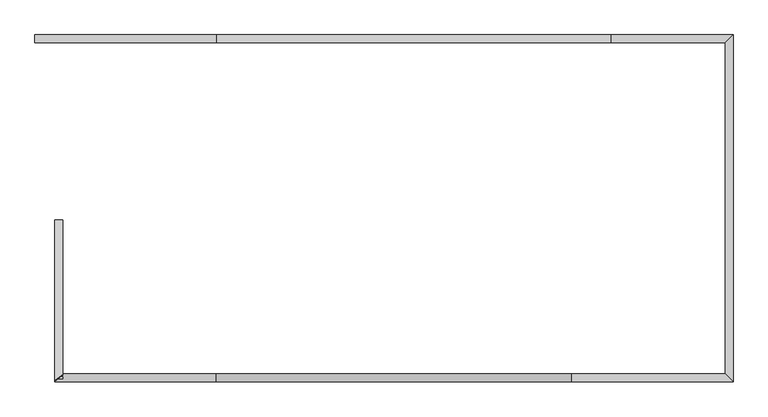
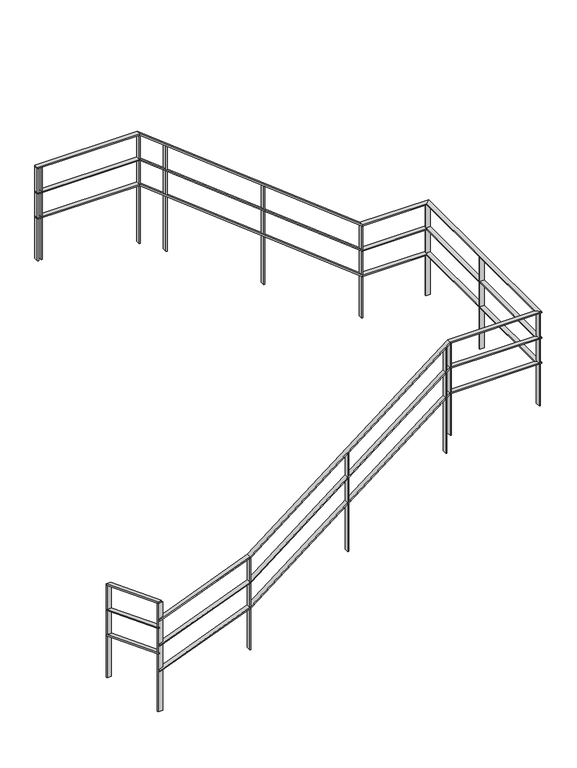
"""IFC4 building model written with IfcOpenShell, lengths in millimetres: railing geometry, r 1100mm 笠木フラットバー."""

from ifc_helpers import new_model, si_unit, frame, origin, place, context, project, spatial, polyline, outline, extrude, faceted_brep, source, transform, mapped, element, save


def railing_1eb0047a(model_context):
    return source(origin(), model_context, "Body", "SolidModel", [
        faceted_brep([(-2820.9784025, 14849.6868987, 1389.2091709), (-2820.9784025, 14849.6868987, 1402.0951769), (-2770.9784025, 14849.6868987, 1402.0951769), (-2770.9784025, 14849.6868987, 1389.2091709), (-2820.9784025, 13826.6877623, 1789.5131808), (-2770.9784025, 13864.9656205, 1774.5348885), (-2770.9784025, 13872.6860351, 1784.3998627), (-2820.9784025, 13834.4081769, 1799.378155)], [[[0, 1, 2, 3]], [[4, 5, 6, 7]], [[3, 2, 6, 5]], [[0, 3, 5, 4]], [[1, 0, 4, 7]], [[2, 1, 7, 6]]]),
        faceted_brep([(-2811.2571243, 13824.6868987, 1578.8827146), (-2818.9775389, 13824.6868987, 1588.7476887), (-2780.6996807, 13874.6868987, 1603.7259811), (-2772.9792661, 13874.6868987, 1593.8610069), (-1798.9837263, 13874.6868987, 1987.8757024), (-1792.9730787, 13874.6868987, 1977.3416889), (-1792.9730787, 13824.6868987, 1977.3416889), (451.9528762, 13874.6868987, 3749.4782609), (456.0903187, 13874.6868987, 3737.4782609), (456.0903187, 13824.6868987, 3737.4782609), (1429.0215975, 13874.6868987, 3749.4782609), (1429.0215975, 13874.6868987, 3737.4782609), (1479.0215975, 13824.6868987, 3737.4782609), (1429.0215975, 15974.6868987, 3749.4782609), (1429.0215975, 15974.6868987, 3737.4782609), (1479.0215975, 16024.6868987, 3737.4782609), (706.0903187, 15974.6868987, 3749.4782609), (701.9528762, 15974.6868987, 3737.4782609), (701.9528762, 16024.6868987, 3737.4782609), (-1793.9096813, 15974.6868987, 5706.0), (-1798.0471238, 15974.6868987, 5694.0), (-1798.0471238, 16024.6868987, 5694.0), (-1798.9837263, 13824.6868987, 1987.8757024), (451.9528762, 13824.6868987, 3749.4782609), (1479.0215975, 13824.6868987, 3749.4782609), (1479.0215975, 16024.6868987, 3749.4782609), (706.0903187, 16024.6868987, 3749.4782609), (-1793.9096813, 16024.6868987, 5706.0), (-2945.9784025, 16024.6868987, 5694.0), (-2945.9784025, 15974.6868987, 5694.0), (-2945.9784025, 15974.6868987, 5706.0), (-2945.9784025, 16024.6868987, 5706.0)], [[[0, 1, 2, 3]], [[3, 2, 4, 5]], [[0, 3, 5, 6]], [[5, 4, 7, 8]], [[6, 5, 8, 9]], [[8, 7, 10, 11]], [[9, 8, 11, 12]], [[11, 10, 13, 14]], [[12, 11, 14, 15]], [[14, 13, 16, 17]], [[15, 14, 17, 18]], [[17, 16, 19, 20]], [[18, 17, 20, 21]], [[1, 0, 6, 22]], [[2, 1, 22, 4]], [[22, 6, 9, 23]], [[4, 22, 23, 7]], [[23, 9, 12, 24]], [[7, 23, 24, 10]], [[24, 12, 15, 25]], [[10, 24, 25, 13]], [[25, 15, 18, 26]], [[13, 25, 26, 16]], [[26, 18, 21, 27]], [[16, 26, 27, 19]], [[28, 29, 30, 31]], [[27, 21, 28, 31]], [[19, 27, 31, 30]], [[20, 19, 30, 29]], [[21, 20, 29, 28]]]),
        faceted_brep([(-2820.9784025, 14849.6868987, 1089.2091709), (-2820.9784025, 14849.6868987, 1102.0951769), (-2770.9784025, 14849.6868987, 1102.0951769), (-2770.9784025, 14849.6868987, 1089.2091709), (-2820.9784025, 13826.6877623, 1489.5131808), (-2770.9784025, 13864.9656205, 1474.5348885), (-2770.9784025, 13872.6860351, 1484.3998627), (-2820.9784025, 13834.4081769, 1499.378155)], [[[0, 1, 2, 3]], [[4, 5, 6, 7]], [[3, 2, 6, 5]], [[0, 3, 5, 4]], [[1, 0, 4, 7]], [[2, 1, 7, 6]]]),
        faceted_brep([(-2811.2571243, 13824.6868987, 1278.8827146), (-2818.9775389, 13824.6868987, 1288.7476887), (-2780.6996807, 13874.6868987, 1303.7259811), (-2772.9792661, 13874.6868987, 1293.8610069), (-1798.9837263, 13874.6868987, 1687.8757024), (-1792.9730787, 13874.6868987, 1677.3416889), (-1792.9730787, 13824.6868987, 1677.3416889), (451.9528762, 13874.6868987, 3449.4782609), (456.0903187, 13874.6868987, 3437.4782609), (456.0903187, 13824.6868987, 3437.4782609), (1429.0215975, 13874.6868987, 3449.4782609), (1429.0215975, 13874.6868987, 3437.4782609), (1479.0215975, 13824.6868987, 3437.4782609), (1429.0215975, 15974.6868987, 3449.4782609), (1429.0215975, 15974.6868987, 3437.4782609), (1479.0215975, 16024.6868987, 3437.4782609), (706.0903187, 15974.6868987, 3449.4782609), (701.9528762, 15974.6868987, 3437.4782609), (701.9528762, 16024.6868987, 3437.4782609), (-1793.9096813, 15974.6868987, 5406.0), (-1798.0471238, 15974.6868987, 5394.0), (-1798.0471238, 16024.6868987, 5394.0), (-1798.9837263, 13824.6868987, 1687.8757024), (451.9528762, 13824.6868987, 3449.4782609), (1479.0215975, 13824.6868987, 3449.4782609), (1479.0215975, 16024.6868987, 3449.4782609), (706.0903187, 16024.6868987, 3449.4782609), (-1793.9096813, 16024.6868987, 5406.0), (-2945.9784025, 16024.6868987, 5394.0), (-2945.9784025, 15974.6868987, 5394.0), (-2945.9784025, 15974.6868987, 5406.0), (-2945.9784025, 16024.6868987, 5406.0)], [[[0, 1, 2, 3]], [[3, 2, 4, 5]], [[0, 3, 5, 6]], [[5, 4, 7, 8]], [[6, 5, 8, 9]], [[8, 7, 10, 11]], [[9, 8, 11, 12]], [[11, 10, 13, 14]], [[12, 11, 14, 15]], [[14, 13, 16, 17]], [[15, 14, 17, 18]], [[17, 16, 19, 20]], [[18, 17, 20, 21]], [[1, 0, 6, 22]], [[2, 1, 22, 4]], [[22, 6, 9, 23]], [[4, 22, 23, 7]], [[23, 9, 12, 24]], [[7, 23, 24, 10]], [[24, 12, 15, 25]], [[10, 24, 25, 13]], [[25, 15, 18, 26]], [[13, 25, 26, 16]], [[26, 18, 21, 27]], [[16, 26, 27, 19]], [[28, 29, 30, 31]], [[27, 21, 28, 31]], [[19, 27, 31, 30]], [[20, 19, 30, 29]], [[21, 20, 29, 28]]]),
        faceted_brep([(-2820.9784025, 14849.6868987, 789.2091709), (-2820.9784025, 14849.6868987, 802.0951769), (-2770.9784025, 14849.6868987, 802.0951769), (-2770.9784025, 14849.6868987, 789.2091709), (-2820.9784025, 13826.6877623, 1189.5131808), (-2770.9784025, 13864.9656205, 1174.5348885), (-2770.9784025, 13872.6860351, 1184.3998627), (-2820.9784025, 13834.4081769, 1199.378155)], [[[0, 1, 2, 3]], [[4, 5, 6, 7]], [[3, 2, 6, 5]], [[0, 3, 5, 4]], [[1, 0, 4, 7]], [[2, 1, 7, 6]]]),
        faceted_brep([(-2811.2571243, 13824.6868987, 978.8827146), (-2818.9775389, 13824.6868987, 988.7476887), (-2780.6996807, 13874.6868987, 1003.7259811), (-2772.9792661, 13874.6868987, 993.8610069), (-1798.9837263, 13874.6868987, 1387.8757024), (-1792.9730787, 13874.6868987, 1377.3416889), (-1792.9730787, 13824.6868987, 1377.3416889), (451.9528762, 13874.6868987, 3149.4782609), (456.0903187, 13874.6868987, 3137.4782609), (456.0903187, 13824.6868987, 3137.4782609), (1429.0215975, 13874.6868987, 3149.4782609), (1429.0215975, 13874.6868987, 3137.4782609), (1479.0215975, 13824.6868987, 3137.4782609), (1429.0215975, 15974.6868987, 3149.4782609), (1429.0215975, 15974.6868987, 3137.4782609), (1479.0215975, 16024.6868987, 3137.4782609), (706.0903187, 15974.6868987, 3149.4782609), (701.9528762, 15974.6868987, 3137.4782609), (701.9528762, 16024.6868987, 3137.4782609), (-1793.9096813, 15974.6868987, 5106.0), (-1798.0471238, 15974.6868987, 5094.0), (-1798.0471238, 16024.6868987, 5094.0), (-1798.9837263, 13824.6868987, 1387.8757024), (451.9528762, 13824.6868987, 3149.4782609), (1479.0215975, 13824.6868987, 3149.4782609), (1479.0215975, 16024.6868987, 3149.4782609), (706.0903187, 16024.6868987, 3149.4782609), (-1793.9096813, 16024.6868987, 5106.0), (-2945.9784025, 16024.6868987, 5094.0), (-2945.9784025, 15974.6868987, 5094.0), (-2945.9784025, 15974.6868987, 5106.0), (-2945.9784025, 16024.6868987, 5106.0)], [[[0, 1, 2, 3]], [[3, 2, 4, 5]], [[0, 3, 5, 6]], [[5, 4, 7, 8]], [[6, 5, 8, 9]], [[8, 7, 10, 11]], [[9, 8, 11, 12]], [[11, 10, 13, 14]], [[12, 11, 14, 15]], [[14, 13, 16, 17]], [[15, 14, 17, 18]], [[17, 16, 19, 20]], [[18, 17, 20, 21]], [[1, 0, 6, 22]], [[2, 1, 22, 4]], [[22, 6, 9, 23]], [[4, 22, 23, 7]], [[23, 9, 12, 24]], [[7, 23, 24, 10]], [[24, 12, 15, 25]], [[10, 24, 25, 13]], [[25, 15, 18, 26]], [[13, 25, 26, 16]], [[26, 18, 21, 27]], [[16, 26, 27, 19]], [[28, 29, 30, 31]], [[27, 21, 28, 31]], [[19, 27, 31, 30]], [[20, 19, 30, 29]], [[21, 20, 29, 28]]]),
        extrude(outline(polyline([(-2889.9784025, 16024.6868987), (-2889.9784025, 15974.6868987), (-2901.9784025, 15974.6868987), (-2901.9784025, 16024.6868987), (-2889.9784025, 16024.6868987)])), frame((0.0, 0.0, 4600.0), z_axis=(0.0, 0.0, 1.0), x_axis=(1.0, 0.0, 0.0)), (0.0, 0.0, 1.0), 1094.0),
        extrude(outline(polyline([(4208.6956522, -1489.9784025), (5452.9027399, -1489.9784025), (5462.2940442, -1501.9784025), (4208.6956522, -1501.9784025), (4208.6956522, -1489.9784025)])), frame((0.0, 15974.6868987, 0.0), z_axis=(0.0, 1.0, 0.0), x_axis=(0.0, 0.0, 1.0)), (0.0, 0.0, 1.0), 50.0),
        extrude(outline(polyline([(3426.0869565, -389.9784025), (4592.0331747, -389.9784025), (4601.424479, -401.9784025), (3426.0869565, -401.9784025), (3426.0869565, -389.9784025)])), frame((0.0, 15974.6868987, 0.0), z_axis=(0.0, 1.0, 0.0), x_axis=(0.0, 0.0, 1.0)), (0.0, 0.0, 1.0), 50.0),
        extrude(outline(polyline([(1479.0215975, 14943.6868987), (1429.0215975, 14943.6868987), (1429.0215975, 14955.6868987), (1479.0215975, 14955.6868987), (1479.0215975, 14943.6868987)])), frame((0.0, 0.0, 2643.4782609), z_axis=(0.0, 0.0, 1.0), x_axis=(1.0, 0.0, 0.0)), (0.0, 0.0, 1.0), 1094.0),
        extrude(outline(polyline([(3692.0331747, 398.0215975), (2447.826087, 398.0215975), (2447.826087, 410.0215975), (3701.424479, 410.0215975), (3692.0331747, 398.0215975)])), frame((0.0, 13824.6868987, 0.0), z_axis=(0.0, 1.0, 0.0), x_axis=(0.0, 0.0, 1.0)), (0.0, 0.0, 1.0), 50.0),
        extrude(outline(polyline([(2831.1636095, -701.9784025), (1665.2173913, -701.9784025), (1665.2173913, -689.9784025), (2840.5549138, -689.9784025), (2831.1636095, -701.9784025)])), frame((0.0, 13824.6868987, 0.0), z_axis=(0.0, 1.0, 0.0), x_axis=(0.0, 0.0, 1.0)), (0.0, 0.0, 1.0), 50.0),
        extrude(outline(polyline([(-1789.9784025, 16024.6868987), (-1789.9784025, 15974.6868987), (-1801.9784025, 15974.6868987), (-1801.9784025, 16024.6868987), (-1789.9784025, 16024.6868987)])), frame((0.0, 0.0, 4404.3478261), z_axis=(0.0, 0.0, 1.0), x_axis=(1.0, 0.0, 0.0)), (0.0, 0.0, 1.0), 1289.6521739),
        extrude(outline(polyline([(710.0215975, 16024.6868987), (710.0215975, 15974.6868987), (698.0215975, 15974.6868987), (698.0215975, 16024.6868987), (710.0215975, 16024.6868987)])), frame((0.0, 0.0, 2643.4782609), z_axis=(0.0, 0.0, 1.0), x_axis=(1.0, 0.0, 0.0)), (0.0, 0.0, 1.0), 1094.0),
        extrude(outline(polyline([(1479.0215975, 15993.6868987), (1429.0215975, 15993.6868987), (1429.0215975, 16005.6868987), (1479.0215975, 16005.6868987), (1479.0215975, 15993.6868987)])), frame((0.0, 0.0, 2643.4782609), z_axis=(0.0, 0.0, 1.0), x_axis=(1.0, 0.0, 0.0)), (0.0, 0.0, 1.0), 1094.0),
        extrude(outline(polyline([(1448.0215975, 13824.6868987), (1448.0215975, 13874.6868987), (1460.0215975, 13874.6868987), (1460.0215975, 13824.6868987), (1448.0215975, 13824.6868987)])), frame((0.0, 0.0, 2643.4782609), z_axis=(0.0, 0.0, 1.0), x_axis=(1.0, 0.0, 0.0)), (0.0, 0.0, 1.0), 1094.0),
        extrude(outline(polyline([(3731.1636095, 448.0215975), (2643.4782609, 448.0215975), (2643.4782609, 460.0215975), (3740.5549138, 460.0215975), (3731.1636095, 448.0215975)])), frame((0.0, 13824.6868987, 0.0), z_axis=(0.0, 1.0, 0.0), x_axis=(0.0, 0.0, 1.0)), (0.0, 0.0, 1.0), 50.0),
        extrude(outline(polyline([(1973.8178666, -1801.9784025), (882.6086957, -1801.9784025), (882.6086957, -1789.9784025), (1978.5135188, -1789.9784025), (1973.8178666, -1801.9784025)])), frame((0.0, 13824.6868987, 0.0), z_axis=(0.0, 1.0, 0.0), x_axis=(0.0, 0.0, 1.0)), (0.0, 0.0, 1.0), 50.0),
        extrude(outline(polyline([(13855.6868987, 1778.1656927), (13855.6868987, 491.3043478), (13843.6868987, 491.3043478), (13843.6868987, 1782.8613449), (13855.6868987, 1778.1656927)])), frame((-2820.9784025, 0.0, 0.0), z_axis=(1.0, 0.0, 0.0), x_axis=(0.0, 1.0, 0.0)), (0.0, 0.0, 1.0), 50.0),
        extrude(outline(polyline([(-2933.9784025, 16024.6868987), (-2933.9784025, 15974.6868987), (-2945.9784025, 15974.6868987), (-2945.9784025, 16024.6868987), (-2933.9784025, 16024.6868987)])), frame((0.0, 0.0, 4600.0), z_axis=(0.0, 0.0, 1.0), x_axis=(1.0, 0.0, 0.0)), (0.0, 0.0, 1.0), 1094.0),
        extrude(outline(polyline([(14849.6868987, 1389.2091709), (14849.6868987, 295.6521739), (14837.6868987, 295.6521739), (14837.6868987, 1393.9048231), (14849.6868987, 1389.2091709)])), frame((-2820.9784025, 0.0, 0.0), z_axis=(1.0, 0.0, 0.0), x_axis=(0.0, 1.0, 0.0)), (0.0, 0.0, 1.0), 50.0),
    ])


if __name__ == "__main__":
    model = new_model("IFC4")
    model_context = context("Model", 3, world=origin())
    ifc_project = project(units=[si_unit("LENGTHUNIT", "METRE", prefix="MILLI")], contexts=[model_context])
    site = spatial("IfcSite", under=ifc_project)
    building = spatial("IfcBuilding", under=site)
    placement = place(None, origin())
    railing_shape = railing_1eb0047a(model_context)
    element("IfcRailing", 1, ObjectType="r 1100mm 笠木フラットバー", at=placement, inside=building, context=model_context, shape_type="MappedRepresentation", body=[
        mapped(railing_shape, transform((0.0, 0.0, 0.0), x_axis=(1.0, 0.0, 0.0), y_axis=(0.0, 1.0, 0.0), z_axis=(0.0, 0.0, 1.0))),
    ])
    save(model, "model.ifc")
